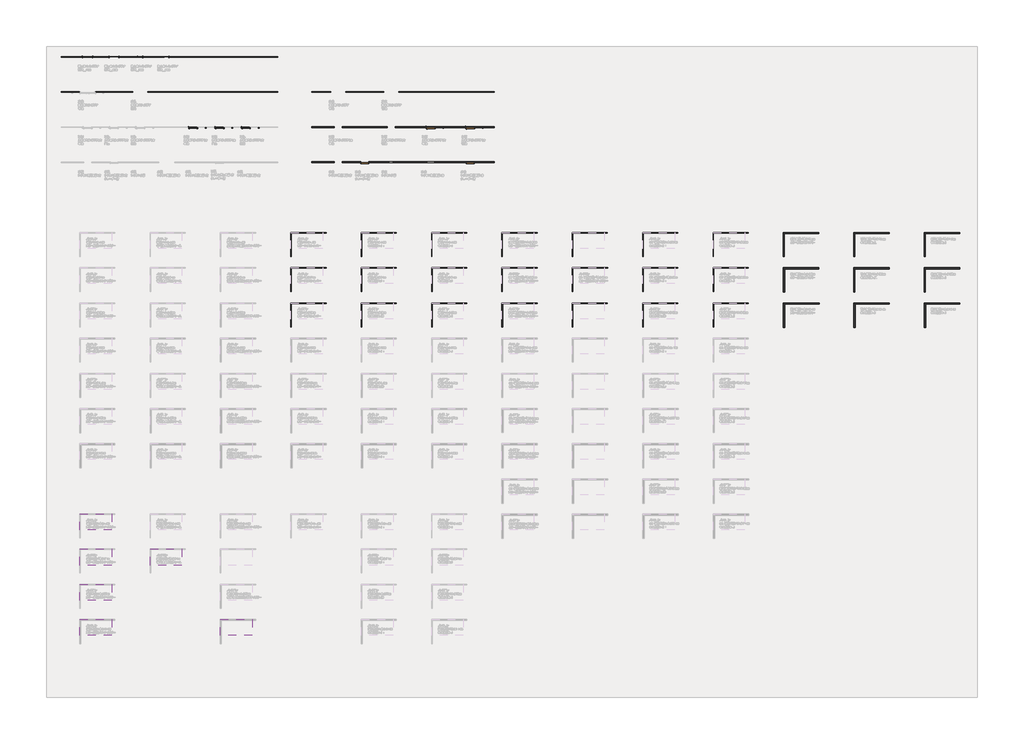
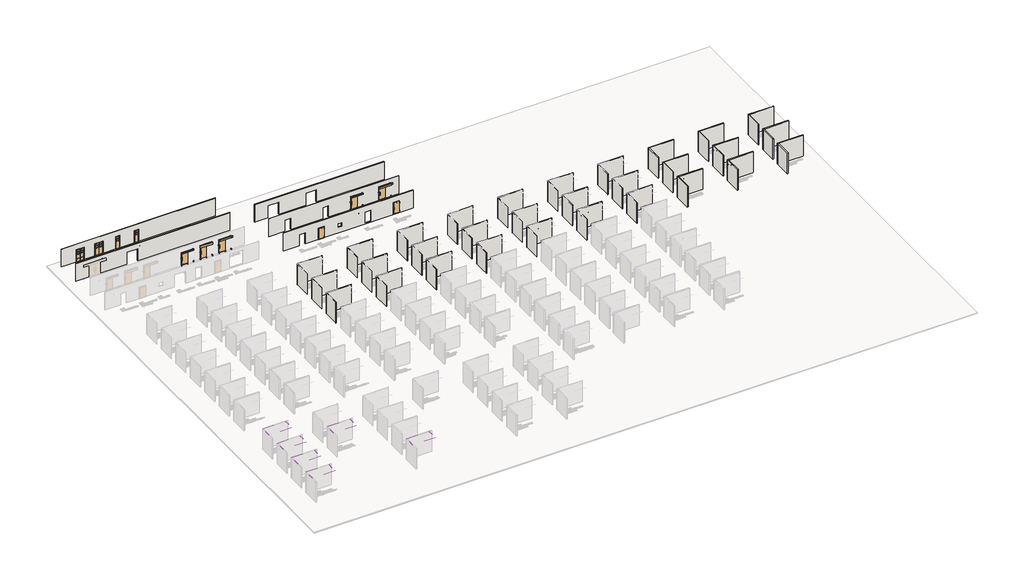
# One storey, part 3 of 117: 65 walls, 11 doors, 6 coverings.
"""IFC4 building model written with IfcOpenShell, lengths in millimetres."""

from ifc_helpers import new_model, si_unit, frame, origin, place, context, project, spatial, polyline, outline, extrude, faceted_brep, transform, mapped, element, save
from components import door_bd9080c8, door_a06cd3e7, door_acf1a07b, door_559ab057, door_ed1821af, door_8bd8df1e, door_b3f44f39, door_b5cc7a54, door_233bc4a3, door_05fedcf8, door_3bc860e5

model = new_model("IFC4")

# Units and contexts
model_context = context("Model", 3, world=origin())
ifc_project = project(units=[si_unit("LENGTHUNIT", "METRE", prefix="MILLI")], contexts=[model_context])

# Site, building, storey
site = spatial("IfcSite", under=ifc_project)
building = spatial("IfcBuilding", under=site)
storey = spatial("IfcBuildingStorey", under=building, Name="レベル 1", Elevation=500.0)

# Coverings
placement = place(None, origin())
element("IfcCovering", 1, ObjectType="g-p_不燃断熱パネルt44+天井下地材t125_900x2700", at=placement, inside=storey, context=model_context, shape_type="SweptSolid", body=[
    extrude(outline(polyline([(-24000.0, -21822.0), (-24000.0, -20000.0), (-20378.0, -20000.0), (-20378.0, -21822.0), (-24000.0, -21822.0)])), frame((0.0, 0.0, 4000.0), z_axis=(0.0, 0.0, 1.0), x_axis=(1.0, 0.0, 0.0)), (0.0, 0.0, 1.0), 169.0),
])
element("IfcCovering", 2, ObjectType="g-p_不燃断熱パネルt50+天井下地材t125_900x2700", at=placement, inside=storey, context=model_context, shape_type="SweptSolid", body=[
    extrude(outline(polyline([(-24000.0, -25822.0), (-24000.0, -24000.0), (-20378.0, -24000.0), (-20378.0, -25822.0), (-24000.0, -25822.0)])), frame((0.0, 0.0, 4000.0), z_axis=(0.0, 0.0, 1.0), x_axis=(1.0, 0.0, 0.0)), (0.0, 0.0, 1.0), 175.0),
])
element("IfcCovering", 3, ObjectType="g-p_不燃断熱パネルt77+天井下地材t125_900x2700", at=placement, inside=storey, context=model_context, shape_type="SweptSolid", body=[
    extrude(outline(polyline([(-24000.0, -29822.0), (-24000.0, -28000.0), (-20378.0, -28000.0), (-20378.0, -29822.0), (-24000.0, -29822.0)])), frame((0.0, 0.0, 4000.0), z_axis=(0.0, 0.0, 1.0), x_axis=(1.0, 0.0, 0.0)), (0.0, 0.0, 1.0), 202.0),
])
element("IfcCovering", 4, ObjectType="g-p_不燃断熱パネルt100+天井下地材t125_900x2700", at=placement, inside=storey, context=model_context, shape_type="SweptSolid", body=[
    extrude(outline(polyline([(-24000.0, -33822.0), (-24000.0, -32000.0), (-20378.0, -32000.0), (-20378.0, -33822.0), (-24000.0, -33822.0)])), frame((0.0, 0.0, 4000.0), z_axis=(0.0, 0.0, 1.0), x_axis=(1.0, 0.0, 0.0)), (0.0, 0.0, 1.0), 225.0),
])
element("IfcCovering", 5, ObjectType="g-p_不燃断熱パネルt50+天井下地材t125_900x2700", at=placement, inside=storey, context=model_context, shape_type="SweptSolid", body=[
    extrude(outline(polyline([(-16000.0, -25822.0), (-16000.0, -24000.0), (-12378.0, -24000.0), (-12378.0, -25822.0), (-16000.0, -25822.0)])), frame((0.0, 0.0, 4000.0), z_axis=(0.0, 0.0, 1.0), x_axis=(1.0, 0.0, 0.0)), (0.0, 0.0, 1.0), 175.0),
])
element("IfcCovering", 6, ObjectType="g-p_不燃断熱パネルt100+天井下地材t125_900x2700", at=placement, inside=storey, context=model_context, shape_type="SweptSolid", body=[
    extrude(outline(polyline([(-8000.0, -33822.0), (-8000.0, -32000.0), (-4378.0, -32000.0), (-4378.0, -33822.0), (-8000.0, -33822.0)])), frame((0.0, 0.0, 4000.0), z_axis=(0.0, 0.0, 1.0), x_axis=(1.0, 0.0, 0.0)), (0.0, 0.0, 1.0), 225.0),
])

# Doors
door_shape = door_bd9080c8(model_context)
element("IfcDoor", 7, ObjectType="片開きスイングドア_窓付_FCG : W610xH2005xt40", at=placement, inside=storey, context=model_context, shape_type="MappedRepresentation", body=[
    mapped(door_shape, transform((-17100.0, 32000.0, 500.0), x_axis=(1.0, 0.0, 0.0), y_axis=(0.0, 1.0, 0.0), z_axis=(0.0, 0.0, 1.0))),
])
door_2_shape = door_a06cd3e7(model_context)
element("IfcDoor", 8, ObjectType="片開きスイングドア_窓付_SCG : W610xH2005xt21", at=placement, inside=storey, context=model_context, shape_type="MappedRepresentation", body=[
    mapped(door_2_shape, transform((-14100.0, 32000.0, 500.0), x_axis=(1.0, 0.0, 0.0), y_axis=(0.0, 1.0, 0.0), z_axis=(0.0, 0.0, 1.0))),
])
door_3_shape = door_acf1a07b(model_context)
element("IfcDoor", 9, ObjectType="両開きスイングドア_窓付_SCG : W1215xH2005xt21", at=placement, inside=storey, context=model_context, shape_type="MappedRepresentation", body=[
    mapped(door_3_shape, transform((-20100.0, 32000.0, 500.0), x_axis=(-1.0, 0.0, 0.0), y_axis=(0.0, -1.0, 0.0), z_axis=(0.0, 0.0, 1.0))),
])
door_4_shape = door_559ab057(model_context)
element("IfcDoor", 10, ObjectType="両開きスイングドア_窓付_FCG : W1215xH2005xt40", at=placement, inside=storey, context=model_context, shape_type="MappedRepresentation", body=[
    mapped(door_4_shape, transform((-23100.0, 32000.0, 500.0), x_axis=(1.0, 0.0, 0.0), y_axis=(0.0, 1.0, 0.0), z_axis=(0.0, 0.0, 1.0))),
])
door_5_shape = door_ed1821af(model_context)
element("IfcDoor", 11, ObjectType="冷蔵_片引きスライドドア4方_自閉 : W870xH1800xt55", at=placement, inside=storey, context=model_context, shape_type="MappedRepresentation", body=[
    mapped(door_5_shape, transform((-8100.0, 24000.0, 700.0), x_axis=(-1.0, 0.0, 0.0), y_axis=(0.0, -1.0, 0.0), z_axis=(0.0, 0.0, 1.0))),
])
door_6_shape = door_8bd8df1e(model_context)
element("IfcDoor", 12, ObjectType="冷蔵_片引きスライドドア4方_手動 : W870xH1800xt55", at=placement, inside=storey, context=model_context, shape_type="MappedRepresentation", body=[
    mapped(door_6_shape, transform((-11100.0, 24000.0, 700.0), x_axis=(-1.0, 0.0, 0.0), y_axis=(0.0, -1.0, 0.0), z_axis=(0.0, 0.0, 1.0))),
])
door_7_shape = door_b3f44f39(model_context)
element("IfcDoor", 13, ObjectType="冷蔵_片引きスライドドア4方_電動 : W870xH1800xt55", at=placement, inside=storey, context=model_context, shape_type="MappedRepresentation", body=[
    mapped(door_7_shape, transform((-5100.0, 24000.0, 700.0), x_axis=(-1.0, 0.0, 0.0), y_axis=(0.0, -1.0, 0.0), z_axis=(0.0, 0.0, 1.0))),
])
door_8_shape = door_b5cc7a54(model_context)
element("IfcDoor", 14, ObjectType="冷凍_シリウス片開き扉4方_クローザー付 : W870xH1800xt100", at=placement, inside=storey, context=model_context, shape_type="MappedRepresentation", body=[
    mapped(door_8_shape, transform((20400.0, 20000.0, 700.0), x_axis=(-1.0, 0.0, 0.0), y_axis=(0.0, -1.0, 0.0), z_axis=(0.0, 0.0, 1.0))),
])
door_9_shape = door_233bc4a3(model_context)
element("IfcDoor", 15, ObjectType="冷凍_片引きスライドドア4方_手動 : W870xH1800xt100", at=placement, inside=storey, context=model_context, shape_type="MappedRepresentation", body=[
    mapped(door_9_shape, transform((15900.0, 24000.0, 700.0), x_axis=(-1.0, 0.0, 0.0), y_axis=(0.0, -1.0, 0.0), z_axis=(0.0, 0.0, 1.0))),
])
door_10_shape = door_05fedcf8(model_context)
element("IfcDoor", 16, ObjectType="冷凍_片引きスライドドア4方_電動 : W870xH1800xt100", at=placement, inside=storey, context=model_context, shape_type="MappedRepresentation", body=[
    mapped(door_10_shape, transform((20400.0, 24000.0, 700.0), x_axis=(-1.0, 0.0, 0.0), y_axis=(0.0, -1.0, 0.0), z_axis=(0.0, 0.0, 1.0))),
])
door_11_shape = door_3bc860e5(model_context)
element("IfcDoor", 17, ObjectType="冷凍_シリウス片開き扉3方_クローザー付 : W870xH1855xt100", at=placement, inside=storey, context=model_context, shape_type="MappedRepresentation", body=[
    mapped(door_11_shape, transform((8400.0, 20000.0, 500.0), x_axis=(-1.0, 0.0, 0.0), y_axis=(0.0, -1.0, 0.0), z_axis=(0.0, 0.0, 1.0))),
])

# Walls
element("IfcWall", 18, ObjectType="g-p_断熱パネル(フラット)t44", at=placement, inside=storey, context=model_context, shape_type="Brep", body=[
    faceted_brep([(0.0, 11956.0, 500.0), (44.0, 11956.0, 500.0), (4000.0, 11956.0, 500.0), (4000.0, 11956.0, 4000.0), (44.0, 11956.0, 4000.0), (0.0, 11956.0, 4000.0), (0.0, 12000.0, 500.0), (0.0, 12000.0, 4000.0), (4000.0, 12000.0, 4000.0), (4000.0, 12000.0, 500.0)], [[[0, 1, 2, 3, 4, 5]], [[6, 7, 8, 9]], [[2, 1, 0, 6, 9]], [[3, 2, 9, 8]], [[5, 4, 3, 8, 7]], [[0, 5, 7, 6]]]),
])
element("IfcWall", 19, ObjectType="g-p_断熱パネル(フラット)t44", at=placement, inside=storey, context=model_context, shape_type="SweptSolid", body=[
    extrude(outline(polyline([(0.0, 9278.0), (0.0, 11956.0), (44.0, 11956.0), (44.0, 9278.0), (0.0, 9278.0)])), frame((0.0, 0.0, 500.0), z_axis=(0.0, 0.0, 1.0), x_axis=(1.0, 0.0, 0.0)), (0.0, 0.0, 1.0), 3500.0),
])
element("IfcWall", 20, ObjectType="g-p_断熱パネル(フラット)t50", at=placement, inside=storey, context=model_context, shape_type="Brep", body=[
    faceted_brep([(0.0, 7950.0, 500.0), (50.0, 7950.0, 500.0), (4000.0, 7950.0, 500.0), (4000.0, 7950.0, 4000.0), (50.0, 7950.0, 4000.0), (0.0, 7950.0, 4000.0), (0.0, 8000.0, 500.0), (0.0, 8000.0, 4000.0), (4000.0, 8000.0, 4000.0), (4000.0, 8000.0, 500.0)], [[[0, 1, 2, 3, 4, 5]], [[6, 7, 8, 9]], [[2, 1, 0, 6, 9]], [[3, 2, 9, 8]], [[5, 4, 3, 8, 7]], [[0, 5, 7, 6]]]),
])
element("IfcWall", 21, ObjectType="g-p_断熱パネル(フラット)t50", at=placement, inside=storey, context=model_context, shape_type="SweptSolid", body=[
    extrude(outline(polyline([(0.0, 5275.0), (0.0, 7950.0), (50.0, 7950.0), (50.0, 5275.0), (0.0, 5275.0)])), frame((0.0, 0.0, 500.0), z_axis=(0.0, 0.0, 1.0), x_axis=(1.0, 0.0, 0.0)), (0.0, 0.0, 1.0), 3500.0),
])
element("IfcWall", 22, ObjectType="g-p_断熱パネル(フラット)t62", at=placement, inside=storey, context=model_context, shape_type="Brep", body=[
    faceted_brep([(0.0, 3938.0, 500.0), (62.0, 3938.0, 500.0), (4000.0, 3938.0, 500.0), (4000.0, 3938.0, 4000.0), (62.0, 3938.0, 4000.0), (0.0, 3938.0, 4000.0), (0.0, 4000.0, 500.0), (0.0, 4000.0, 4000.0), (4000.0, 4000.0, 4000.0), (4000.0, 4000.0, 500.0)], [[[0, 1, 2, 3, 4, 5]], [[6, 7, 8, 9]], [[2, 1, 0, 6, 9]], [[3, 2, 9, 8]], [[5, 4, 3, 8, 7]], [[0, 5, 7, 6]]]),
])
element("IfcWall", 23, ObjectType="g-p_断熱パネル(フラット)t62", at=placement, inside=storey, context=model_context, shape_type="SweptSolid", body=[
    extrude(outline(polyline([(0.0, 1269.0), (0.0, 3938.0), (62.0, 3938.0), (62.0, 1269.0), (0.0, 1269.0)])), frame((0.0, 0.0, 500.0), z_axis=(0.0, 0.0, 1.0), x_axis=(1.0, 0.0, 0.0)), (0.0, 0.0, 1.0), 3500.0),
])
element("IfcWall", 24, ObjectType="g-p_断熱パネル(フラット)t44", at=placement, inside=storey, context=model_context, shape_type="Brep", body=[
    faceted_brep([(8000.0, 11956.0, 500.0), (8044.0, 11956.0, 500.0), (12000.0, 11956.0, 500.0), (12000.0, 11956.0, 4000.0), (8044.0, 11956.0, 4000.0), (8000.0, 11956.0, 4000.0), (8000.0, 12000.0, 500.0), (8000.0, 12000.0, 4000.0), (12000.0, 12000.0, 4000.0), (12000.0, 12000.0, 500.0)], [[[0, 1, 2, 3, 4, 5]], [[6, 7, 8, 9]], [[2, 1, 0, 6, 9]], [[3, 2, 9, 8]], [[5, 4, 3, 8, 7]], [[0, 5, 7, 6]]]),
])
element("IfcWall", 25, ObjectType="g-p_断熱パネル(フラット)t44", at=placement, inside=storey, context=model_context, shape_type="SweptSolid", body=[
    extrude(outline(polyline([(8000.0, 9278.0), (8000.0, 11956.0), (8044.0, 11956.0), (8044.0, 9278.0), (8000.0, 9278.0)])), frame((0.0, 0.0, 500.0), z_axis=(0.0, 0.0, 1.0), x_axis=(1.0, 0.0, 0.0)), (0.0, 0.0, 1.0), 3500.0),
])
element("IfcWall", 26, ObjectType="g-p_断熱パネル(フラット)t50", at=placement, inside=storey, context=model_context, shape_type="Brep", body=[
    faceted_brep([(8000.0, 7950.0, 500.0), (8050.0, 7950.0, 500.0), (12000.0, 7950.0, 500.0), (12000.0, 7950.0, 4000.0), (8050.0, 7950.0, 4000.0), (8000.0, 7950.0, 4000.0), (8000.0, 8000.0, 500.0), (8000.0, 8000.0, 4000.0), (12000.0, 8000.0, 4000.0), (12000.0, 8000.0, 500.0)], [[[0, 1, 2, 3, 4, 5]], [[6, 7, 8, 9]], [[2, 1, 0, 6, 9]], [[3, 2, 9, 8]], [[5, 4, 3, 8, 7]], [[0, 5, 7, 6]]]),
])
element("IfcWall", 27, ObjectType="g-p_断熱パネル(フラット)t50", at=placement, inside=storey, context=model_context, shape_type="SweptSolid", body=[
    extrude(outline(polyline([(8000.0, 5275.0), (8000.0, 7950.0), (8050.0, 7950.0), (8050.0, 5275.0), (8000.0, 5275.0)])), frame((0.0, 0.0, 500.0), z_axis=(0.0, 0.0, 1.0), x_axis=(1.0, 0.0, 0.0)), (0.0, 0.0, 1.0), 3500.0),
])
element("IfcWall", 28, ObjectType="g-p_断熱パネル(フラット)t62", at=placement, inside=storey, context=model_context, shape_type="Brep", body=[
    faceted_brep([(8000.0, 3938.0, 500.0), (8062.0, 3938.0, 500.0), (12000.0, 3938.0, 500.0), (12000.0, 3938.0, 4000.0), (8062.0, 3938.0, 4000.0), (8000.0, 3938.0, 4000.0), (8000.0, 4000.0, 500.0), (8000.0, 4000.0, 4000.0), (12000.0, 4000.0, 4000.0), (12000.0, 4000.0, 500.0)], [[[0, 1, 2, 3, 4, 5]], [[6, 7, 8, 9]], [[2, 1, 0, 6, 9]], [[3, 2, 9, 8]], [[5, 4, 3, 8, 7]], [[0, 5, 7, 6]]]),
])
element("IfcWall", 29, ObjectType="g-p_断熱パネル(フラット)t62", at=placement, inside=storey, context=model_context, shape_type="SweptSolid", body=[
    extrude(outline(polyline([(8000.0, 1269.0), (8000.0, 3938.0), (8062.0, 3938.0), (8062.0, 1269.0), (8000.0, 1269.0)])), frame((0.0, 0.0, 500.0), z_axis=(0.0, 0.0, 1.0), x_axis=(1.0, 0.0, 0.0)), (0.0, 0.0, 1.0), 3500.0),
])
element("IfcWall", 30, ObjectType="g-p_断熱パネル(フラット)t44", at=placement, inside=storey, context=model_context, shape_type="Brep", body=[
    faceted_brep([(16000.0, 11956.0, 500.0), (16044.0, 11956.0, 500.0), (20000.0, 11956.0, 500.0), (20000.0, 11956.0, 4000.0), (16044.0, 11956.0, 4000.0), (16000.0, 11956.0, 4000.0), (16000.0, 12000.0, 500.0), (16000.0, 12000.0, 4000.0), (20000.0, 12000.0, 4000.0), (20000.0, 12000.0, 500.0)], [[[0, 1, 2, 3, 4, 5]], [[6, 7, 8, 9]], [[2, 1, 0, 6, 9]], [[3, 2, 9, 8]], [[5, 4, 3, 8, 7]], [[0, 5, 7, 6]]]),
])
element("IfcWall", 31, ObjectType="g-p_断熱パネル(フラット)t44", at=placement, inside=storey, context=model_context, shape_type="SweptSolid", body=[
    extrude(outline(polyline([(16000.0, 9278.0), (16000.0, 11956.0), (16044.0, 11956.0), (16044.0, 9278.0), (16000.0, 9278.0)])), frame((0.0, 0.0, 500.0), z_axis=(0.0, 0.0, 1.0), x_axis=(1.0, 0.0, 0.0)), (0.0, 0.0, 1.0), 3500.0),
])
element("IfcWall", 32, ObjectType="g-p_断熱パネル(フラット)t50", at=placement, inside=storey, context=model_context, shape_type="Brep", body=[
    faceted_brep([(16000.0, 7950.0, 500.0), (16050.0, 7950.0, 500.0), (20000.0, 7950.0, 500.0), (20000.0, 7950.0, 4000.0), (16050.0, 7950.0, 4000.0), (16000.0, 7950.0, 4000.0), (16000.0, 8000.0, 500.0), (16000.0, 8000.0, 4000.0), (20000.0, 8000.0, 4000.0), (20000.0, 8000.0, 500.0)], [[[0, 1, 2, 3, 4, 5]], [[6, 7, 8, 9]], [[2, 1, 0, 6, 9]], [[3, 2, 9, 8]], [[5, 4, 3, 8, 7]], [[0, 5, 7, 6]]]),
])
element("IfcWall", 33, ObjectType="g-p_断熱パネル(フラット)t50", at=placement, inside=storey, context=model_context, shape_type="SweptSolid", body=[
    extrude(outline(polyline([(16000.0, 5275.0), (16000.0, 7950.0), (16050.0, 7950.0), (16050.0, 5275.0), (16000.0, 5275.0)])), frame((0.0, 0.0, 500.0), z_axis=(0.0, 0.0, 1.0), x_axis=(1.0, 0.0, 0.0)), (0.0, 0.0, 1.0), 3500.0),
])
element("IfcWall", 34, ObjectType="g-p_断熱パネル(フラット)t62", at=placement, inside=storey, context=model_context, shape_type="Brep", body=[
    faceted_brep([(16000.0, 3938.0, 500.0), (16062.0, 3938.0, 500.0), (20000.0, 3938.0, 500.0), (20000.0, 3938.0, 4000.0), (16062.0, 3938.0, 4000.0), (16000.0, 3938.0, 4000.0), (16000.0, 4000.0, 500.0), (16000.0, 4000.0, 4000.0), (20000.0, 4000.0, 4000.0), (20000.0, 4000.0, 500.0)], [[[0, 1, 2, 3, 4, 5]], [[6, 7, 8, 9]], [[2, 1, 0, 6, 9]], [[3, 2, 9, 8]], [[5, 4, 3, 8, 7]], [[0, 5, 7, 6]]]),
])
element("IfcWall", 35, ObjectType="g-p_断熱パネル(フラット)t62", at=placement, inside=storey, context=model_context, shape_type="SweptSolid", body=[
    extrude(outline(polyline([(16000.0, 1269.0), (16000.0, 3938.0), (16062.0, 3938.0), (16062.0, 1269.0), (16000.0, 1269.0)])), frame((0.0, 0.0, 500.0), z_axis=(0.0, 0.0, 1.0), x_axis=(1.0, 0.0, 0.0)), (0.0, 0.0, 1.0), 3500.0),
])
element("IfcWall", 36, ObjectType="g-p_断熱パネル(フラット)t44", at=placement, inside=storey, context=model_context, shape_type="SweptSolid", body=[
    extrude(outline(polyline([(500.0, -22248.49897), (500.0, -17951.50103), (2516.00103, -17951.50103), (2516.00103, -16248.49897), (500.0, -16248.49897), (500.0, -1500.0), (3500.0, -1500.0), (3500.0, -26100.0), (500.0, -26100.0), (500.0, -23951.50103), (2516.00103, -23951.50103), (2516.00103, -22248.49897), (500.0, -22248.49897)])), frame((0.0, 27978.0, 0.0), z_axis=(0.0, 1.0, 0.0), x_axis=(0.0, 0.0, 1.0)), (0.0, 0.0, 1.0), 44.0),
])
element("IfcWall", 37, ObjectType="g-p_断熱パネル(フラット)t44", at=placement, inside=storey, context=model_context, shape_type="SweptSolid", body=[
    extrude(outline(polyline([(2511.0, -13788.99897), (500.0, -13788.99897), (500.0, -1500.0), (3500.0, -1500.0), (3500.0, -26100.0), (500.0, -26100.0), (500.0, -23713.5), (2511.0, -23713.5), (2511.0, -22486.49897), (500.0, -22486.49897), (500.0, -20713.50103), (2511.0, -20713.50103), (2511.0, -19486.5), (500.0, -19486.5), (500.0, -17411.0), (2511.0, -17411.0), (2511.0, -16788.99897), (500.0, -16788.99897), (500.0, -14411.0), (2511.0, -14411.0), (2511.0, -13788.99897)])), frame((0.0, 31978.0, 0.0), z_axis=(0.0, 1.0, 0.0), x_axis=(0.0, 0.0, 1.0)), (0.0, 0.0, 1.0), 44.0),
])
element("IfcWall", 38, ObjectType="g-p_不燃断熱パネル(フラット)t100", at=placement, inside=storey, context=model_context, shape_type="SweptSolid", body=[
    extrude(outline(polyline([(500.0, 23100.0), (3500.0, 23100.0), (3500.0, 2400.0), (500.0, 2400.0), (500.0, 4948.99897), (2371.00103, 4948.99897), (2371.00103, 5851.00103), (500.0, 5851.00103), (500.0, 7948.99897), (2371.00103, 7948.99897), (2371.00103, 8851.00103), (500.0, 8851.00103), (500.0, 23100.0)]), holes=[polyline([(2516.00103, 20851.00103), (684.0, 20851.00103), (684.0, 19948.99897), (2516.00103, 19948.99897), (2516.00103, 20851.00103)]), polyline([(2516.00103, 16351.00103), (684.0, 16351.00103), (684.0, 15448.99897), (2516.00103, 15448.99897), (2516.00103, 16351.00103)]), polyline([(2016.00103, 11666.00103), (1484.0, 11666.00103), (1484.0, 11133.99897), (2016.00103, 11133.99897), (2016.00103, 11666.00103)])]), frame((0.0, 19950.0, 0.0), z_axis=(0.0, 1.0, 0.0), x_axis=(0.0, 0.0, 1.0)), (0.0, 0.0, 1.0), 100.0),
])
element("IfcWall", 39, ObjectType="g-p_不燃断熱パネル(フラット)t100", at=placement, inside=storey, context=model_context, shape_type="SweptSolid", body=[
    extrude(outline(polyline([(500.0, 5851.00103), (500.0, 10948.99897), (2421.00103, 10948.99897), (2421.00103, 11851.00103), (500.0, 11851.00103), (500.0, 23100.0), (3500.0, 23100.0), (3500.0, 2400.0), (500.0, 2400.0), (500.0, 4948.99897), (2421.00103, 4948.99897), (2421.00103, 5851.00103), (500.0, 5851.00103)]), holes=[polyline([(2516.00103, 20851.00103), (684.0, 20851.00103), (684.0, 19948.99897), (2516.00103, 19948.99897), (2516.00103, 20851.00103)]), polyline([(2516.00103, 16351.00103), (684.0, 16351.00103), (684.0, 15448.99897), (2516.00103, 15448.99897), (2516.00103, 16351.00103)])]), frame((0.0, 23950.0, 0.0), z_axis=(0.0, 1.0, 0.0), x_axis=(0.0, 0.0, 1.0)), (0.0, 0.0, 1.0), 100.0),
])
element("IfcWall", 40, ObjectType="g-p_不燃断熱パネル(フラット)t100", at=placement, inside=storey, context=model_context, shape_type="SweptSolid", body=[
    extrude(outline(polyline([(500.0, 6251.50103), (500.0, 10548.49897), (2516.00103, 10548.49897), (2516.00103, 12251.50103), (500.0, 12251.50103), (500.0, 23100.0), (3500.0, 23100.0), (3500.0, 2400.0), (500.0, 2400.0), (500.0, 4548.49897), (2516.00103, 4548.49897), (2516.00103, 6251.50103), (500.0, 6251.50103)])), frame((0.0, 27950.0, 0.0), z_axis=(0.0, 1.0, 0.0), x_axis=(0.0, 0.0, 1.0)), (0.0, 0.0, 1.0), 100.0),
])
element("IfcWall", 41, ObjectType="g-p_ECO不燃断熱パネル(フラット)t37", at=placement, inside=storey, context=model_context, shape_type="Brep", body=[
    faceted_brep([(24000.0, 11963.0, 500.0), (24037.0, 11963.0, 500.0), (27996.5, 11963.0, 500.0), (27996.5, 11963.0, 4000.0), (24037.0, 11963.0, 4000.0), (24000.0, 11963.0, 4000.0), (24000.0, 12000.0, 500.0), (24000.0, 12000.0, 4000.0), (27996.5, 12000.0, 4000.0), (27996.5, 12000.0, 500.0)], [[[0, 1, 2, 3, 4, 5]], [[6, 7, 8, 9]], [[2, 1, 0, 6, 9]], [[3, 2, 9, 8]], [[5, 4, 3, 8, 7]], [[0, 5, 7, 6]]]),
])
element("IfcWall", 42, ObjectType="g-p_ECO不燃断熱パネル(フラット)t37", at=placement, inside=storey, context=model_context, shape_type="SweptSolid", body=[
    extrude(outline(polyline([(24000.0, 9281.5), (24000.0, 11963.0), (24037.0, 11963.0), (24037.0, 9281.5), (24000.0, 9281.5)])), frame((0.0, 0.0, 500.0), z_axis=(0.0, 0.0, 1.0), x_axis=(1.0, 0.0, 0.0)), (0.0, 0.0, 1.0), 3500.0),
])
element("IfcWall", 43, ObjectType="g-p_ECO不燃断熱パネル(フラット)t52", at=placement, inside=storey, context=model_context, shape_type="Brep", body=[
    faceted_brep([(24000.0, 7948.0, 500.0), (24052.0, 7948.0, 500.0), (28001.0, 7948.0, 500.0), (28001.0, 7948.0, 4000.0), (24052.0, 7948.0, 4000.0), (24000.0, 7948.0, 4000.0), (24000.0, 8000.0, 500.0), (24000.0, 8000.0, 4000.0), (28001.0, 8000.0, 4000.0), (28001.0, 8000.0, 500.0)], [[[0, 1, 2, 3, 4, 5]], [[6, 7, 8, 9]], [[2, 1, 0, 6, 9]], [[3, 2, 9, 8]], [[5, 4, 3, 8, 7]], [[0, 5, 7, 6]]]),
])
element("IfcWall", 44, ObjectType="g-p_ECO不燃断熱パネル(フラット)t52", at=placement, inside=storey, context=model_context, shape_type="SweptSolid", body=[
    extrude(outline(polyline([(24000.0, 5274.0), (24000.0, 7948.0), (24052.0, 7948.0), (24052.0, 5274.0), (24000.0, 5274.0)])), frame((0.0, 0.0, 500.0), z_axis=(0.0, 0.0, 1.0), x_axis=(1.0, 0.0, 0.0)), (0.0, 0.0, 1.0), 3500.0),
])
element("IfcWall", 45, ObjectType="g-p_ECO不燃断熱パネル(フラット)t68", at=placement, inside=storey, context=model_context, shape_type="Brep", body=[
    faceted_brep([(24000.0, 3932.0, 500.0), (24068.0, 3932.0, 500.0), (27995.5, 3932.0, 500.0), (27995.5, 3932.0, 4000.0), (24068.0, 3932.0, 4000.0), (24000.0, 3932.0, 4000.0), (24000.0, 4000.0, 500.0), (24000.0, 4000.0, 4000.0), (27995.5, 4000.0, 4000.0), (27995.5, 4000.0, 500.0)], [[[0, 1, 2, 3, 4, 5]], [[6, 7, 8, 9]], [[2, 1, 0, 6, 9]], [[3, 2, 9, 8]], [[5, 4, 3, 8, 7]], [[0, 5, 7, 6]]]),
])
element("IfcWall", 46, ObjectType="g-p_ECO不燃断熱パネル(フラット)t68", at=placement, inside=storey, context=model_context, shape_type="SweptSolid", body=[
    extrude(outline(polyline([(24000.0, 1266.0), (24000.0, 3932.0), (24068.0, 3932.0), (24068.0, 1266.0), (24000.0, 1266.0)])), frame((0.0, 0.0, 500.0), z_axis=(0.0, 0.0, 1.0), x_axis=(1.0, 0.0, 0.0)), (0.0, 0.0, 1.0), 3500.0),
])
element("IfcWall", 47, ObjectType="g-p_耐火断熱パネル(フラット)t100", at=placement, inside=storey, context=model_context, shape_type="Brep", body=[
    faceted_brep([(56000.0, 11900.0, 500.0), (56100.0, 11900.0, 500.0), (60028.0, 11900.0, 500.0), (60028.0, 11900.0, 4000.0), (56100.0, 11900.0, 4000.0), (56000.0, 11900.0, 4000.0), (56000.0, 12000.0, 500.0), (56000.0, 12000.0, 4000.0), (60028.0, 12000.0, 4000.0), (60028.0, 12000.0, 500.0)], [[[0, 1, 2, 3, 4, 5]], [[6, 7, 8, 9]], [[2, 1, 0, 6, 9]], [[3, 2, 9, 8]], [[5, 4, 3, 8, 7]], [[0, 5, 7, 6]]]),
])
element("IfcWall", 48, ObjectType="g-p_耐火断熱パネル(フラット)t100", at=placement, inside=storey, context=model_context, shape_type="SweptSolid", body=[
    extrude(outline(polyline([(56000.0, 9250.0), (56000.0, 11900.0), (56100.0, 11900.0), (56100.0, 9250.0), (56000.0, 9250.0)])), frame((0.0, 0.0, 500.0), z_axis=(0.0, 0.0, 1.0), x_axis=(1.0, 0.0, 0.0)), (0.0, 0.0, 1.0), 3500.0),
])
element("IfcWall", 49, ObjectType="g-p_耐火断熱パネル(フラット)t125", at=placement, inside=storey, context=model_context, shape_type="Brep", body=[
    faceted_brep([(56000.0, 7875.0, 500.0), (56125.0, 7875.0, 500.0), (60037.5, 7875.0, 500.0), (60037.5, 7875.0, 4000.0), (56125.0, 7875.0, 4000.0), (56000.0, 7875.0, 4000.0), (56000.0, 8000.0, 500.0), (56000.0, 8000.0, 4000.0), (60037.5, 8000.0, 4000.0), (60037.5, 8000.0, 500.0)], [[[0, 1, 2, 3, 4, 5]], [[6, 7, 8, 9]], [[2, 1, 0, 6, 9]], [[3, 2, 9, 8]], [[5, 4, 3, 8, 7]], [[0, 5, 7, 6]]]),
])
element("IfcWall", 50, ObjectType="g-p_耐火断熱パネル(フラット)t125", at=placement, inside=storey, context=model_context, shape_type="SweptSolid", body=[
    extrude(outline(polyline([(56000.0, 5237.5), (56000.0, 7875.0), (56125.0, 7875.0), (56125.0, 5237.5), (56000.0, 5237.5)])), frame((0.0, 0.0, 500.0), z_axis=(0.0, 0.0, 1.0), x_axis=(1.0, 0.0, 0.0)), (0.0, 0.0, 1.0), 3500.0),
])
element("IfcWall", 51, ObjectType="g-p_耐火断熱パネル(フラット)t150", at=placement, inside=storey, context=model_context, shape_type="Brep", body=[
    faceted_brep([(56000.0, 3850.0, 500.0), (56150.0, 3850.0, 500.0), (60044.0, 3850.0, 500.0), (60044.0, 3850.0, 4000.0), (56150.0, 3850.0, 4000.0), (56000.0, 3850.0, 4000.0), (56000.0, 4000.0, 500.0), (56000.0, 4000.0, 4000.0), (60044.0, 4000.0, 4000.0), (60044.0, 4000.0, 500.0)], [[[0, 1, 2, 3, 4, 5]], [[6, 7, 8, 9]], [[2, 1, 0, 6, 9]], [[3, 2, 9, 8]], [[5, 4, 3, 8, 7]], [[0, 5, 7, 6]]]),
])
element("IfcWall", 52, ObjectType="g-p_耐火断熱パネル(フラット)t150", at=placement, inside=storey, context=model_context, shape_type="SweptSolid", body=[
    extrude(outline(polyline([(56000.0, 1225.0), (56000.0, 3850.0), (56150.0, 3850.0), (56150.0, 1225.0), (56000.0, 1225.0)])), frame((0.0, 0.0, 500.0), z_axis=(0.0, 0.0, 1.0), x_axis=(1.0, 0.0, 0.0)), (0.0, 0.0, 1.0), 3500.0),
])
element("IfcWall", 53, ObjectType="g-p_ECO不燃断熱パネル(フラット)t37", at=placement, inside=storey, context=model_context, shape_type="Brep", body=[
    faceted_brep([(32000.0, 11963.0, 500.0), (32037.0, 11963.0, 500.0), (35996.5, 11963.0, 500.0), (35996.5, 11963.0, 4000.0), (32037.0, 11963.0, 4000.0), (32000.0, 11963.0, 4000.0), (32000.0, 12000.0, 500.0), (32000.0, 12000.0, 4000.0), (35996.5, 12000.0, 4000.0), (35996.5, 12000.0, 500.0)], [[[0, 1, 2, 3, 4, 5]], [[6, 7, 8, 9]], [[2, 1, 0, 6, 9]], [[3, 2, 9, 8]], [[5, 4, 3, 8, 7]], [[0, 5, 7, 6]]]),
])
element("IfcWall", 54, ObjectType="g-p_ECO不燃断熱パネル(フラット)t37", at=placement, inside=storey, context=model_context, shape_type="SweptSolid", body=[
    extrude(outline(polyline([(32000.0, 9281.5), (32000.0, 11963.0), (32037.0, 11963.0), (32037.0, 9281.5), (32000.0, 9281.5)])), frame((0.0, 0.0, 500.0), z_axis=(0.0, 0.0, 1.0), x_axis=(1.0, 0.0, 0.0)), (0.0, 0.0, 1.0), 3500.0),
])
element("IfcWall", 55, ObjectType="g-p_ECO不燃断熱パネル(フラット)t52", at=placement, inside=storey, context=model_context, shape_type="Brep", body=[
    faceted_brep([(32000.0, 7948.0, 500.0), (32052.0, 7948.0, 500.0), (36001.0, 7948.0, 500.0), (36001.0, 7948.0, 4000.0), (32052.0, 7948.0, 4000.0), (32000.0, 7948.0, 4000.0), (32000.0, 8000.0, 500.0), (32000.0, 8000.0, 4000.0), (36001.0, 8000.0, 4000.0), (36001.0, 8000.0, 500.0)], [[[0, 1, 2, 3, 4, 5]], [[6, 7, 8, 9]], [[2, 1, 0, 6, 9]], [[3, 2, 9, 8]], [[5, 4, 3, 8, 7]], [[0, 5, 7, 6]]]),
])
element("IfcWall", 56, ObjectType="g-p_ECO不燃断熱パネル(フラット)t52", at=placement, inside=storey, context=model_context, shape_type="SweptSolid", body=[
    extrude(outline(polyline([(32000.0, 5274.0), (32000.0, 7948.0), (32052.0, 7948.0), (32052.0, 5274.0), (32000.0, 5274.0)])), frame((0.0, 0.0, 500.0), z_axis=(0.0, 0.0, 1.0), x_axis=(1.0, 0.0, 0.0)), (0.0, 0.0, 1.0), 3500.0),
])
element("IfcWall", 57, ObjectType="g-p_ECO不燃断熱パネル(フラット)t68", at=placement, inside=storey, context=model_context, shape_type="Brep", body=[
    faceted_brep([(32000.0, 3932.0, 500.0), (32068.0, 3932.0, 500.0), (35995.5, 3932.0, 500.0), (35995.5, 3932.0, 4000.0), (32068.0, 3932.0, 4000.0), (32000.0, 3932.0, 4000.0), (32000.0, 4000.0, 500.0), (32000.0, 4000.0, 4000.0), (35995.5, 4000.0, 4000.0), (35995.5, 4000.0, 500.0)], [[[0, 1, 2, 3, 4, 5]], [[6, 7, 8, 9]], [[2, 1, 0, 6, 9]], [[3, 2, 9, 8]], [[5, 4, 3, 8, 7]], [[0, 5, 7, 6]]]),
])
element("IfcWall", 58, ObjectType="g-p_ECO不燃断熱パネル(フラット)t68", at=placement, inside=storey, context=model_context, shape_type="SweptSolid", body=[
    extrude(outline(polyline([(32000.0, 1266.0), (32000.0, 3932.0), (32068.0, 3932.0), (32068.0, 1266.0), (32000.0, 1266.0)])), frame((0.0, 0.0, 500.0), z_axis=(0.0, 0.0, 1.0), x_axis=(1.0, 0.0, 0.0)), (0.0, 0.0, 1.0), 3500.0),
])
element("IfcWall", 59, ObjectType="g-p_ECO不燃断熱パネル(フラット)t37", at=placement, inside=storey, context=model_context, shape_type="Brep", body=[
    faceted_brep([(40000.0, 11963.0, 500.0), (40037.0, 11963.0, 500.0), (43996.5, 11963.0, 500.0), (43996.5, 11963.0, 4000.0), (40037.0, 11963.0, 4000.0), (40000.0, 11963.0, 4000.0), (40000.0, 12000.0, 500.0), (40000.0, 12000.0, 4000.0), (43996.5, 12000.0, 4000.0), (43996.5, 12000.0, 500.0)], [[[0, 1, 2, 3, 4, 5]], [[6, 7, 8, 9]], [[2, 1, 0, 6, 9]], [[3, 2, 9, 8]], [[5, 4, 3, 8, 7]], [[0, 5, 7, 6]]]),
])
element("IfcWall", 60, ObjectType="g-p_ECO不燃断熱パネル(フラット)t37", at=placement, inside=storey, context=model_context, shape_type="SweptSolid", body=[
    extrude(outline(polyline([(40000.0, 9281.5), (40000.0, 11963.0), (40037.0, 11963.0), (40037.0, 9281.5), (40000.0, 9281.5)])), frame((0.0, 0.0, 500.0), z_axis=(0.0, 0.0, 1.0), x_axis=(1.0, 0.0, 0.0)), (0.0, 0.0, 1.0), 3500.0),
])
element("IfcWall", 61, ObjectType="g-p_ECO不燃断熱パネル(フラット)t52", at=placement, inside=storey, context=model_context, shape_type="Brep", body=[
    faceted_brep([(40000.0, 7948.0, 500.0), (40052.0, 7948.0, 500.0), (44001.0, 7948.0, 500.0), (44001.0, 7948.0, 4000.0), (40052.0, 7948.0, 4000.0), (40000.0, 7948.0, 4000.0), (40000.0, 8000.0, 500.0), (40000.0, 8000.0, 4000.0), (44001.0, 8000.0, 4000.0), (44001.0, 8000.0, 500.0)], [[[0, 1, 2, 3, 4, 5]], [[6, 7, 8, 9]], [[2, 1, 0, 6, 9]], [[3, 2, 9, 8]], [[5, 4, 3, 8, 7]], [[0, 5, 7, 6]]]),
])
element("IfcWall", 62, ObjectType="g-p_ECO不燃断熱パネル(フラット)t52", at=placement, inside=storey, context=model_context, shape_type="SweptSolid", body=[
    extrude(outline(polyline([(40000.0, 5274.0), (40000.0, 7948.0), (40052.0, 7948.0), (40052.0, 5274.0), (40000.0, 5274.0)])), frame((0.0, 0.0, 500.0), z_axis=(0.0, 0.0, 1.0), x_axis=(1.0, 0.0, 0.0)), (0.0, 0.0, 1.0), 3500.0),
])
element("IfcWall", 63, ObjectType="g-p_ECO不燃断熱パネル(フラット)t68", at=placement, inside=storey, context=model_context, shape_type="Brep", body=[
    faceted_brep([(40000.0, 3932.0, 500.0), (40068.0, 3932.0, 500.0), (43995.5, 3932.0, 500.0), (43995.5, 3932.0, 4000.0), (40068.0, 3932.0, 4000.0), (40000.0, 3932.0, 4000.0), (40000.0, 4000.0, 500.0), (40000.0, 4000.0, 4000.0), (43995.5, 4000.0, 4000.0), (43995.5, 4000.0, 500.0)], [[[0, 1, 2, 3, 4, 5]], [[6, 7, 8, 9]], [[2, 1, 0, 6, 9]], [[3, 2, 9, 8]], [[5, 4, 3, 8, 7]], [[0, 5, 7, 6]]]),
])
element("IfcWall", 64, ObjectType="g-p_ECO不燃断熱パネル(フラット)t68", at=placement, inside=storey, context=model_context, shape_type="SweptSolid", body=[
    extrude(outline(polyline([(40000.0, 1266.0), (40000.0, 3932.0), (40068.0, 3932.0), (40068.0, 1266.0), (40000.0, 1266.0)])), frame((0.0, 0.0, 500.0), z_axis=(0.0, 0.0, 1.0), x_axis=(1.0, 0.0, 0.0)), (0.0, 0.0, 1.0), 3500.0),
])
element("IfcWall", 65, ObjectType="g-p_ECO不燃断熱パネル(フラット)t37", at=placement, inside=storey, context=model_context, shape_type="Brep", body=[
    faceted_brep([(48000.0, 11963.0, 500.0), (48037.0, 11963.0, 500.0), (51996.5, 11963.0, 500.0), (51996.5, 11963.0, 4000.0), (48037.0, 11963.0, 4000.0), (48000.0, 11963.0, 4000.0), (48000.0, 12000.0, 500.0), (48000.0, 12000.0, 4000.0), (51996.5, 12000.0, 4000.0), (51996.5, 12000.0, 500.0)], [[[0, 1, 2, 3, 4, 5]], [[6, 7, 8, 9]], [[2, 1, 0, 6, 9]], [[3, 2, 9, 8]], [[5, 4, 3, 8, 7]], [[0, 5, 7, 6]]]),
])
element("IfcWall", 66, ObjectType="g-p_ECO不燃断熱パネル(フラット)t37", at=placement, inside=storey, context=model_context, shape_type="SweptSolid", body=[
    extrude(outline(polyline([(48000.0, 9281.5), (48000.0, 11963.0), (48037.0, 11963.0), (48037.0, 9281.5), (48000.0, 9281.5)])), frame((0.0, 0.0, 500.0), z_axis=(0.0, 0.0, 1.0), x_axis=(1.0, 0.0, 0.0)), (0.0, 0.0, 1.0), 3500.0),
])
element("IfcWall", 67, ObjectType="g-p_ECO不燃断熱パネル(フラット)t52", at=placement, inside=storey, context=model_context, shape_type="Brep", body=[
    faceted_brep([(48000.0, 7948.0, 500.0), (48052.0, 7948.0, 500.0), (52001.0, 7948.0, 500.0), (52001.0, 7948.0, 4000.0), (48052.0, 7948.0, 4000.0), (48000.0, 7948.0, 4000.0), (48000.0, 8000.0, 500.0), (48000.0, 8000.0, 4000.0), (52001.0, 8000.0, 4000.0), (52001.0, 8000.0, 500.0)], [[[0, 1, 2, 3, 4, 5]], [[6, 7, 8, 9]], [[2, 1, 0, 6, 9]], [[3, 2, 9, 8]], [[5, 4, 3, 8, 7]], [[0, 5, 7, 6]]]),
])
element("IfcWall", 68, ObjectType="g-p_ECO不燃断熱パネル(フラット)t52", at=placement, inside=storey, context=model_context, shape_type="SweptSolid", body=[
    extrude(outline(polyline([(48000.0, 5274.0), (48000.0, 7948.0), (48052.0, 7948.0), (48052.0, 5274.0), (48000.0, 5274.0)])), frame((0.0, 0.0, 500.0), z_axis=(0.0, 0.0, 1.0), x_axis=(1.0, 0.0, 0.0)), (0.0, 0.0, 1.0), 3500.0),
])
element("IfcWall", 69, ObjectType="g-p_ECO不燃断熱パネル(フラット)t68", at=placement, inside=storey, context=model_context, shape_type="Brep", body=[
    faceted_brep([(48000.0, 3932.0, 500.0), (48068.0, 3932.0, 500.0), (51995.5, 3932.0, 500.0), (51995.5, 3932.0, 4000.0), (48068.0, 3932.0, 4000.0), (48000.0, 3932.0, 4000.0), (48000.0, 4000.0, 500.0), (48000.0, 4000.0, 4000.0), (51995.5, 4000.0, 4000.0), (51995.5, 4000.0, 500.0)], [[[0, 1, 2, 3, 4, 5]], [[6, 7, 8, 9]], [[2, 1, 0, 6, 9]], [[3, 2, 9, 8]], [[5, 4, 3, 8, 7]], [[0, 5, 7, 6]]]),
])
element("IfcWall", 70, ObjectType="g-p_ECO不燃断熱パネル(フラット)t68", at=placement, inside=storey, context=model_context, shape_type="SweptSolid", body=[
    extrude(outline(polyline([(48000.0, 1266.0), (48000.0, 3932.0), (48068.0, 3932.0), (48068.0, 1266.0), (48000.0, 1266.0)])), frame((0.0, 0.0, 500.0), z_axis=(0.0, 0.0, 1.0), x_axis=(1.0, 0.0, 0.0)), (0.0, 0.0, 1.0), 3500.0),
])
element("IfcWall", 71, ObjectType="g-p_耐火断熱パネル(フラット)t100", at=placement, inside=storey, context=model_context, shape_type="Brep", body=[
    faceted_brep([(64000.0, 11900.0, 500.0), (64100.0, 11900.0, 500.0), (68028.0, 11900.0, 500.0), (68028.0, 11900.0, 4000.0), (64100.0, 11900.0, 4000.0), (64000.0, 11900.0, 4000.0), (64000.0, 12000.0, 500.0), (64000.0, 12000.0, 4000.0), (68028.0, 12000.0, 4000.0), (68028.0, 12000.0, 500.0)], [[[0, 1, 2, 3, 4, 5]], [[6, 7, 8, 9]], [[2, 1, 0, 6, 9]], [[3, 2, 9, 8]], [[5, 4, 3, 8, 7]], [[0, 5, 7, 6]]]),
])
element("IfcWall", 72, ObjectType="g-p_耐火断熱パネル(フラット)t100", at=placement, inside=storey, context=model_context, shape_type="SweptSolid", body=[
    extrude(outline(polyline([(64000.0, 9250.0), (64000.0, 11900.0), (64100.0, 11900.0), (64100.0, 9250.0), (64000.0, 9250.0)])), frame((0.0, 0.0, 500.0), z_axis=(0.0, 0.0, 1.0), x_axis=(1.0, 0.0, 0.0)), (0.0, 0.0, 1.0), 3500.0),
])
element("IfcWall", 73, ObjectType="g-p_耐火断熱パネル(フラット)t125", at=placement, inside=storey, context=model_context, shape_type="Brep", body=[
    faceted_brep([(64000.0, 7875.0, 500.0), (64125.0, 7875.0, 500.0), (68037.5, 7875.0, 500.0), (68037.5, 7875.0, 4000.0), (64125.0, 7875.0, 4000.0), (64000.0, 7875.0, 4000.0), (64000.0, 8000.0, 500.0), (64000.0, 8000.0, 4000.0), (68037.5, 8000.0, 4000.0), (68037.5, 8000.0, 500.0)], [[[0, 1, 2, 3, 4, 5]], [[6, 7, 8, 9]], [[2, 1, 0, 6, 9]], [[3, 2, 9, 8]], [[5, 4, 3, 8, 7]], [[0, 5, 7, 6]]]),
])
element("IfcWall", 74, ObjectType="g-p_耐火断熱パネル(フラット)t125", at=placement, inside=storey, context=model_context, shape_type="SweptSolid", body=[
    extrude(outline(polyline([(64000.0, 5237.5), (64000.0, 7875.0), (64125.0, 7875.0), (64125.0, 5237.5), (64000.0, 5237.5)])), frame((0.0, 0.0, 500.0), z_axis=(0.0, 0.0, 1.0), x_axis=(1.0, 0.0, 0.0)), (0.0, 0.0, 1.0), 3500.0),
])
element("IfcWall", 75, ObjectType="g-p_耐火断熱パネル(フラット)t150", at=placement, inside=storey, context=model_context, shape_type="Brep", body=[
    faceted_brep([(64000.0, 3850.0, 500.0), (64150.0, 3850.0, 500.0), (68044.0, 3850.0, 500.0), (68044.0, 3850.0, 4000.0), (64150.0, 3850.0, 4000.0), (64000.0, 3850.0, 4000.0), (64000.0, 4000.0, 500.0), (64000.0, 4000.0, 4000.0), (68044.0, 4000.0, 4000.0), (68044.0, 4000.0, 500.0)], [[[0, 1, 2, 3, 4, 5]], [[6, 7, 8, 9]], [[2, 1, 0, 6, 9]], [[3, 2, 9, 8]], [[5, 4, 3, 8, 7]], [[0, 5, 7, 6]]]),
])
element("IfcWall", 76, ObjectType="g-p_耐火断熱パネル(フラット)t150", at=placement, inside=storey, context=model_context, shape_type="SweptSolid", body=[
    extrude(outline(polyline([(64000.0, 1225.0), (64000.0, 3850.0), (64150.0, 3850.0), (64150.0, 1225.0), (64000.0, 1225.0)])), frame((0.0, 0.0, 500.0), z_axis=(0.0, 0.0, 1.0), x_axis=(1.0, 0.0, 0.0)), (0.0, 0.0, 1.0), 3500.0),
])
element("IfcWall", 77, ObjectType="g-p_耐火断熱パネル(フラット)t100", at=placement, inside=storey, context=model_context, shape_type="Brep", body=[
    faceted_brep([(72000.0, 11900.0, 500.0), (72100.0, 11900.0, 500.0), (76028.0, 11900.0, 500.0), (76028.0, 11900.0, 4000.0), (72100.0, 11900.0, 4000.0), (72000.0, 11900.0, 4000.0), (72000.0, 12000.0, 500.0), (72000.0, 12000.0, 4000.0), (76028.0, 12000.0, 4000.0), (76028.0, 12000.0, 500.0)], [[[0, 1, 2, 3, 4, 5]], [[6, 7, 8, 9]], [[2, 1, 0, 6, 9]], [[3, 2, 9, 8]], [[5, 4, 3, 8, 7]], [[0, 5, 7, 6]]]),
])
element("IfcWall", 78, ObjectType="g-p_耐火断熱パネル(フラット)t100", at=placement, inside=storey, context=model_context, shape_type="SweptSolid", body=[
    extrude(outline(polyline([(72000.0, 9250.0), (72000.0, 11900.0), (72100.0, 11900.0), (72100.0, 9250.0), (72000.0, 9250.0)])), frame((0.0, 0.0, 500.0), z_axis=(0.0, 0.0, 1.0), x_axis=(1.0, 0.0, 0.0)), (0.0, 0.0, 1.0), 3500.0),
])
element("IfcWall", 79, ObjectType="g-p_耐火断熱パネル(フラット)t125", at=placement, inside=storey, context=model_context, shape_type="Brep", body=[
    faceted_brep([(72000.0, 7875.0, 500.0), (72125.0, 7875.0, 500.0), (76037.5, 7875.0, 500.0), (76037.5, 7875.0, 4000.0), (72125.0, 7875.0, 4000.0), (72000.0, 7875.0, 4000.0), (72000.0, 8000.0, 500.0), (72000.0, 8000.0, 4000.0), (76037.5, 8000.0, 4000.0), (76037.5, 8000.0, 500.0)], [[[0, 1, 2, 3, 4, 5]], [[6, 7, 8, 9]], [[2, 1, 0, 6, 9]], [[3, 2, 9, 8]], [[5, 4, 3, 8, 7]], [[0, 5, 7, 6]]]),
])
element("IfcWall", 80, ObjectType="g-p_耐火断熱パネル(フラット)t125", at=placement, inside=storey, context=model_context, shape_type="SweptSolid", body=[
    extrude(outline(polyline([(72000.0, 5237.5), (72000.0, 7875.0), (72125.0, 7875.0), (72125.0, 5237.5), (72000.0, 5237.5)])), frame((0.0, 0.0, 500.0), z_axis=(0.0, 0.0, 1.0), x_axis=(1.0, 0.0, 0.0)), (0.0, 0.0, 1.0), 3500.0),
])
element("IfcWall", 81, ObjectType="g-p_耐火断熱パネル(フラット)t150", at=placement, inside=storey, context=model_context, shape_type="Brep", body=[
    faceted_brep([(72000.0, 3850.0, 500.0), (72150.0, 3850.0, 500.0), (76044.0, 3850.0, 500.0), (76044.0, 3850.0, 4000.0), (72150.0, 3850.0, 4000.0), (72000.0, 3850.0, 4000.0), (72000.0, 4000.0, 500.0), (72000.0, 4000.0, 4000.0), (76044.0, 4000.0, 4000.0), (76044.0, 4000.0, 500.0)], [[[0, 1, 2, 3, 4, 5]], [[6, 7, 8, 9]], [[2, 1, 0, 6, 9]], [[3, 2, 9, 8]], [[5, 4, 3, 8, 7]], [[0, 5, 7, 6]]]),
])
element("IfcWall", 82, ObjectType="g-p_耐火断熱パネル(フラット)t150", at=placement, inside=storey, context=model_context, shape_type="SweptSolid", body=[
    extrude(outline(polyline([(72000.0, 1225.0), (72000.0, 3850.0), (72150.0, 3850.0), (72150.0, 1225.0), (72000.0, 1225.0)])), frame((0.0, 0.0, 500.0), z_axis=(0.0, 0.0, 1.0), x_axis=(1.0, 0.0, 0.0)), (0.0, 0.0, 1.0), 3500.0),
])

save(model, "model.ifc")
